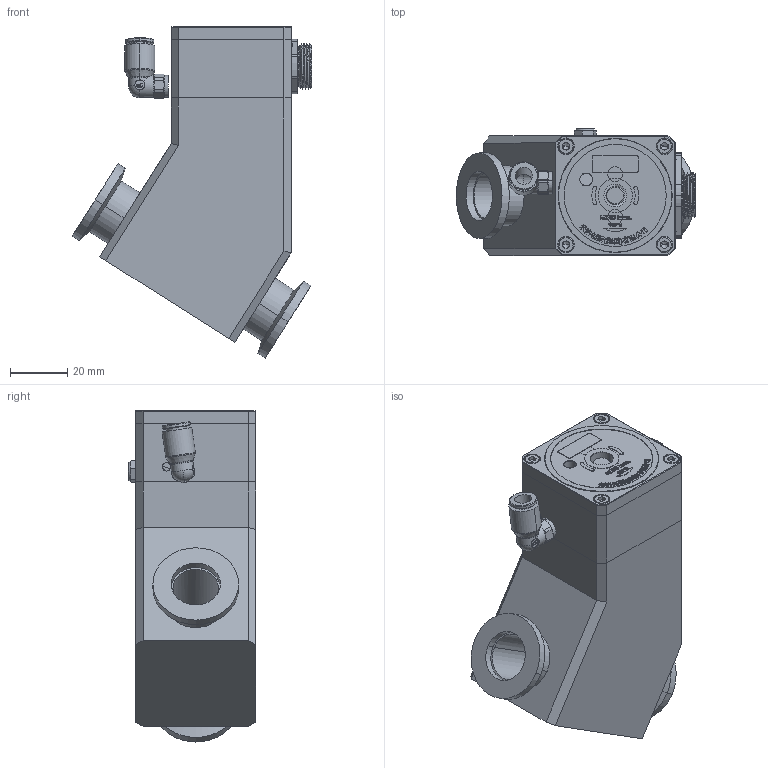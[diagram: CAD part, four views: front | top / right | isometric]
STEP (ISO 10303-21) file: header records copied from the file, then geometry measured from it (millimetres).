
FILE_DESCRIPTION (( 'STEP AP203' ), '1' );
FILE_NAME ('KF16眻盄概.STEP', '2021-12-21T14:34:45', ( '' ), ( '' ), 'SwSTEP 2.0', 'SolidWorks 2016', '' );
FILE_SCHEMA (( 'CONFIG_CONTROL_DESIGN' ));
Length unit declared in the file: millimetre
Products named in the file (1): KF16眻盄概
Bounding box: 83.92 x 44.65 x 116.41 mm (x, y, z)
Surface area: 32740.8 mm2 (no closed solid volume)
Topology: 0 solids, 32 shells, 651 faces, 2757 edges, 2020 vertices
Faces by surface type: plane 301, cylinder 142, bspline 127, cone 47, torus 32, sphere 2
Entity records: 41359 total; most frequent: CARTESIAN_POINT 20690, ORIENTED_EDGE 3955, DIRECTION 3623, EDGE_CURVE 2738, VERTEX_POINT 2020, VECTOR 1695, LINE 1695, AXIS2_PLACEMENT_3D 964
